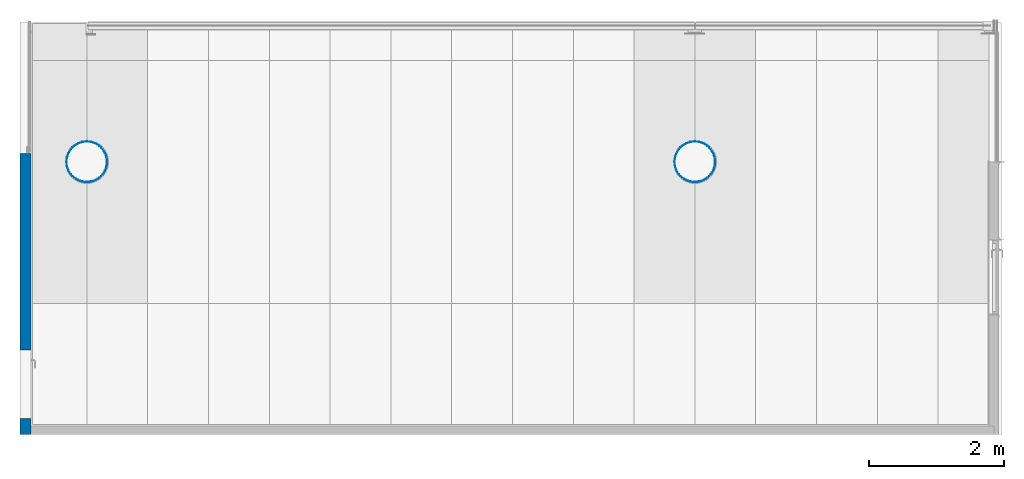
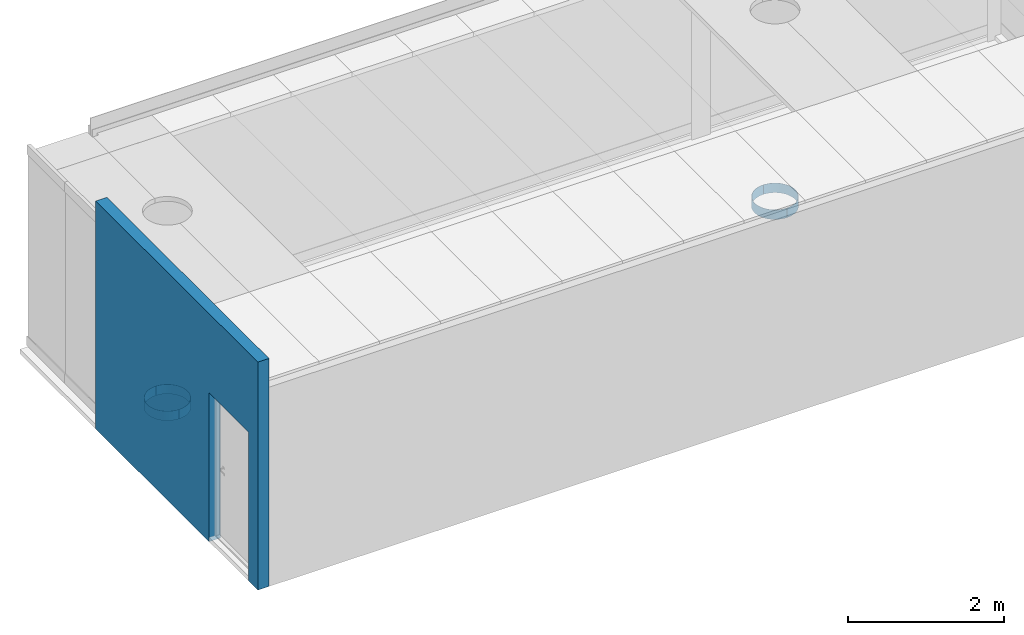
# One storey, part 7 of 12: 5 walls, 1 opening.
"""IFC2X3 building model written with IfcOpenShell, lengths in millimetres."""

from ifc_helpers import new_model, entity, si_unit, converted_unit, derived_unit, direction, frame, frame_2d, origin, origin_with_axes, place, context, subcontext, project, spatial, polyline, circle_curve, parameter, trimmed, segment, composite_curve, rectangle, outline, extrude, faceted_brep, material, layer, layer_set, layer_usage, type_object, element, save


model = new_model("IFC2X3")

# Units and contexts
model_context = context("Model", 3, precision=0.01, world=frame((0.0, 4.29681676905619e-09, 0.0)), true_north=direction((6.12323399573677e-17, 1.0)))
plan_context = context("Plan", 3, precision=0.01, world=frame((0.0, 4.29681676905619e-09, 0.0)), true_north=direction((6.12323399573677e-17, 1.0)))
body_context = subcontext(model_context, "Body", "Model", "MODEL_VIEW")
ifc_project = project(units=[converted_unit("PLANEANGLEUNIT", "DEGREE", entity("IfcPositiveLengthMeasure", 0.0174532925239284), si_unit("PLANEANGLEUNIT", "RADIAN"), dimensions=[0, 0, 0, 0, 0, 0, 0]), si_unit("AREAUNIT", "SQUARE_METRE"), si_unit("LENGTHUNIT", "METRE", prefix="MILLI"), si_unit("MASSUNIT", "GRAM", prefix="KILO"), si_unit("POWERUNIT", "WATT"), si_unit("PRESSUREUNIT", "PASCAL", prefix="KILO"), si_unit("FORCEUNIT", "NEWTON", prefix="KILO"), si_unit("ELECTRICVOLTAGEUNIT", "VOLT"), si_unit("ELECTRICCURRENTUNIT", "AMPERE"), si_unit("THERMODYNAMICTEMPERATUREUNIT", "DEGREE_CELSIUS"), si_unit("TIMEUNIT", "SECOND"), si_unit("VOLUMEUNIT", "CUBIC_METRE"), derived_unit("LINEARVELOCITYUNIT", [(si_unit("LENGTHUNIT", "METRE"), 1), (si_unit("TIMEUNIT", "SECOND"), -1)]), derived_unit("VOLUMETRICFLOWRATEUNIT", [(si_unit("VOLUMEUNIT", "CUBIC_METRE"), 1), (si_unit("TIMEUNIT", "SECOND"), -1)]), derived_unit("THERMALTRANSMITTANCEUNIT", [(si_unit("POWERUNIT", "WATT"), 1), (si_unit("THERMODYNAMICTEMPERATUREUNIT", "KELVIN"), -1), (si_unit("AREAUNIT", "SQUARE_METRE"), -1)]), derived_unit("SOUNDPRESSUREUNIT", [(si_unit("PRESSUREUNIT", "PASCAL"), 1)])], contexts=[model_context, plan_context])

# Site, building, storey
site_placement = place(None, origin_with_axes())
site = spatial("IfcSite", under=ifc_project, at=site_placement, Name="ENGM", CompositionType="ELEMENT")
building_placement = place(site_placement, origin_with_axes())
building = spatial("IfcBuilding", under=site, at=building_placement, Name="TH", CompositionType="ELEMENT")
storey_placement = place(building_placement, frame((0.0, 0.0, 210200.0), z_axis=(0.0, 0.0, 1.0), x_axis=(1.0, 0.0, 0.0)))
storey = spatial("IfcBuildingStorey", under=building, at=storey_placement, Name="Nivå F - 0,7 m", CompositionType="ELEMENT", Elevation=210200.0)

# Wall, opening
ifc_material_1 = material(Name="T2_Gips Robust")
ifc_layer_1 = layer(ifc_material_1, 12.5)
ifc_material_2 = material(Name="T2_Gips Standard")
ifc_layer_2 = layer(ifc_material_2, 12.5)
ifc_material_3 = material(Name="_NSW X-finer")
ifc_layer_3 = layer(ifc_material_3, 15.0)
ifc_material_4 = material(Name="_NSW Stålstender, uisolert")
ifc_layer_4 = layer(ifc_material_4, 100.0)
ifc_layer_5 = layer(ifc_material_2, 12.5)
ifc_layer_6 = layer(ifc_material_1, 12.5)
ifc_layer_set_1 = layer_set([ifc_layer_1, ifc_layer_2, ifc_layer_3, ifc_layer_4, ifc_layer_5, ifc_layer_6], Name="Basic Wall:A241 - RXVR-101")
wall_type_1 = type_object("IfcWallType", Name="Basic Wall:A241 - RXVR-101", PredefinedType="STANDARD", material=ifc_layer_set_1)
wall_1_placement = place(storey_placement, frame((1116092.5, 462362.499999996, -70.0), z_axis=(0.0, 0.0, 1.0), x_axis=(0.0, 1.0, 0.0)))
wall_1 = element("IfcWall", 1, at=wall_1_placement, inside=storey, type_object=wall_type_1, Name="Basic Wall:A241 - RXVR-101", ObjectType="Basic Wall:A241 - RXVR-101", context=body_context, shape_type="Brep", body=[
    faceted_brep([(0.0, -82.5, 0.0), (240.0, -82.5, 0.0), (240.0, -82.5, 70.0), (240.0, -82.5, 2330.0), (1250.0, -82.5, 2330.0), (1250.0, -82.5, 70.0), (1250.0, -82.5, 0.0), (4162.49999999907, -82.5, 0.0), (4162.49999999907, -82.5, 3570.0), (0.0, -82.5, 3570.0), (4162.49999999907, 82.5, 2220.0), (4162.49999999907, 82.5, 0.0), (3487.49999999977, 82.5, 0.0), (3370.0, 82.5, 0.0), (1250.0, 82.5, 0.0), (1250.0, 82.5, 70.0), (1250.0, 82.5, 2330.0), (240.0, 82.5, 2330.0), (240.0, 82.5, 70.0), (240.0, 82.5, 0.0), (0.0, 82.5, 0.0), (0.0, 82.5, 3570.0), (4162.49999999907, 82.5, 3570.0)], [[[0, 1, 2, 3, 4, 5, 6, 7, 8, 9]], [[10, 11, 12, 13, 14, 15, 16, 17, 18, 19, 20, 21, 22]], [[2, 1, 19, 18, 17, 3]], [[4, 3, 17, 16]], [[5, 4, 16, 15, 14, 6]], [[20, 0, 9, 21]], [[1, 0, 20, 19]], [[11, 10, 22, 8, 7]], [[9, 8, 22, 21]], [[7, 6, 14, 13, 12, 11]]]),
])
opening_placement = place(wall_1_placement, frame((1250.0, 82.5, 70.0), z_axis=(0.0, 0.0, 1.0), x_axis=(1.0, 0.0, 0.0)))
element("IfcOpeningElement", 2, at=opening_placement, cuts=wall_1, Name="A20 - Slagdør - Enkel:A243 - DI_LTO - 0990x2240 mm:1", ObjectType="Opening", context=body_context, shape_type="SweptSolid", body=[
    extrude(rectangle(XDim=2259.99999999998, YDim=1010.0, at=frame_2d((1129.99999999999, 505.0), x_axis=(1.0, 0.0))), frame((0.0, 0.0, 0.0), z_axis=(0.0, -1.0, 0.0), x_axis=(0.0, 0.0, 1.0)), (0.0, 0.0, 1.0), 165.0),
])

# Walls
ifc_material_5 = material(Name="Rustfrit stål")
ifc_layer_7 = layer(ifc_material_5, 5.0)
ifc_layer_set_2 = layer_set([ifc_layer_7], Name="Basic Wall:A240 - FE-S09")
ifc_layer_usage_1 = layer_usage(ifc_layer_set_2, "AXIS2", "NEGATIVE", 2.5)
wall_type_2 = type_object("IfcWallType", Name="Basic Wall:A240 - FE-S09", PredefinedType="STANDARD", material=ifc_layer_set_2)
wall_2_placement = place(storey_placement, frame((1117000.0, 466699.999999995, 0.0), z_axis=(0.0, 0.0, 1.0), x_axis=(0.0, 1.0, 0.0)))
element("IfcWallStandardCase", 3, at=wall_2_placement, inside=storey, type_object=wall_type_2, material=ifc_layer_usage_1, Name="Basic Wall:A240 - FE-S09", ObjectType="Basic Wall:A240 - FE-S09", context=body_context, shape_type="SweptSolid", body=[
    extrude(outline(composite_curve([segment(trimmed(circle_curve(frame_2d((-300.0, 0.0), x_axis=(1.0, 0.0)), 297.5), [parameter(5.24155411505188e-12)], [parameter(180.000000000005)], True, "PARAMETER"), False, "CONTINUOUS"), segment(polyline([(-2.49999999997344, 0.0), (2.49999999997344, 0.0)]), True, "CONTINUOUS"), segment(trimmed(circle_curve(frame_2d((-300.0, 0.0), x_axis=(1.0, 0.0)), 302.5), [parameter(5.24155411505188e-12)], [parameter(180.000000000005)], True, "PARAMETER"), True, "CONTINUOUS"), segment(polyline([(-602.499999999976, 0.0), (-597.500000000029, 0.0)]), True, "CONTINUOUS")], self_intersect=False)), origin(), (0.0, 0.0, 1.0), 150.000000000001),
])
ifc_layer_usage_2 = layer_usage(ifc_layer_set_2, "AXIS2", "NEGATIVE", 2.5)
wall_3_placement = place(storey_placement, frame((1117000.0, 466099.999999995, 0.0), z_axis=(0.0, 0.0, 1.0), x_axis=(0.0, 1.0, 0.0)))
element("IfcWallStandardCase", 4, at=wall_3_placement, inside=storey, type_object=wall_type_2, material=ifc_layer_usage_2, Name="Basic Wall:A240 - FE-S09", ObjectType="Basic Wall:A240 - FE-S09", context=body_context, shape_type="SweptSolid", body=[
    extrude(outline(composite_curve([segment(trimmed(circle_curve(frame_2d((300.0, 0.0), x_axis=(1.0, 0.0)), 297.5), [parameter(180.000000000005)], [parameter(5.24155411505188e-12)], True, "PARAMETER"), False, "CONTINUOUS"), segment(polyline([(2.49999999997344, 0.0), (-2.49999999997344, 0.0)]), True, "CONTINUOUS"), segment(trimmed(circle_curve(frame_2d((300.0, 0.0), x_axis=(1.0, 0.0)), 302.5), [parameter(180.000000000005)], [parameter(5.24155411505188e-12)], True, "PARAMETER"), True, "CONTINUOUS"), segment(polyline([(602.499999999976, 0.0), (597.500000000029, 0.0)]), True, "CONTINUOUS")], self_intersect=False)), origin(), (0.0, 0.0, 1.0), 150.000000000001),
])
ifc_layer_usage_3 = layer_usage(ifc_layer_set_2, "AXIS2", "NEGATIVE", 2.5)
wall_4_placement = place(storey_placement, frame((1126000.0, 466699.999999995, 0.0), z_axis=(0.0, 0.0, 1.0), x_axis=(0.0, 1.0, 0.0)))
element("IfcWallStandardCase", 5, at=wall_4_placement, inside=storey, type_object=wall_type_2, material=ifc_layer_usage_3, Name="Basic Wall:A240 - FE-S09", ObjectType="Basic Wall:A240 - FE-S09", context=body_context, shape_type="SweptSolid", body=[
    extrude(outline(composite_curve([segment(trimmed(circle_curve(frame_2d((-300.0, 0.0), x_axis=(1.0, 0.0)), 297.5), [parameter(5.24155411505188e-12)], [parameter(180.000000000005)], True, "PARAMETER"), False, "CONTINUOUS"), segment(polyline([(-2.49999999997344, 0.0), (2.49999999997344, 0.0)]), True, "CONTINUOUS"), segment(trimmed(circle_curve(frame_2d((-300.0, 0.0), x_axis=(1.0, 0.0)), 302.5), [parameter(5.24155411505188e-12)], [parameter(180.000000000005)], True, "PARAMETER"), True, "CONTINUOUS"), segment(polyline([(-602.499999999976, 0.0), (-597.500000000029, 0.0)]), True, "CONTINUOUS")], self_intersect=False)), origin(), (0.0, 0.0, 1.0), 150.000000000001),
])
ifc_layer_usage_4 = layer_usage(ifc_layer_set_2, "AXIS2", "NEGATIVE", 2.5)
wall_5_placement = place(storey_placement, frame((1126000.0, 466099.999999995, 0.0), z_axis=(0.0, 0.0, 1.0), x_axis=(0.0, 1.0, 0.0)))
element("IfcWallStandardCase", 6, at=wall_5_placement, inside=storey, type_object=wall_type_2, material=ifc_layer_usage_4, Name="Basic Wall:A240 - FE-S09", ObjectType="Basic Wall:A240 - FE-S09", context=body_context, shape_type="SweptSolid", body=[
    extrude(outline(composite_curve([segment(trimmed(circle_curve(frame_2d((300.0, 0.0), x_axis=(1.0, 0.0)), 297.5), [parameter(180.000000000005)], [parameter(5.24155411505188e-12)], True, "PARAMETER"), False, "CONTINUOUS"), segment(polyline([(2.49999999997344, 0.0), (-2.49999999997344, 0.0)]), True, "CONTINUOUS"), segment(trimmed(circle_curve(frame_2d((300.0, 0.0), x_axis=(1.0, 0.0)), 302.5), [parameter(180.000000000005)], [parameter(5.24155411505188e-12)], True, "PARAMETER"), True, "CONTINUOUS"), segment(polyline([(602.499999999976, 0.0), (597.500000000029, 0.0)]), True, "CONTINUOUS")], self_intersect=False)), origin(), (0.0, 0.0, 1.0), 150.000000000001),
])

save(model, "model.ifc")
